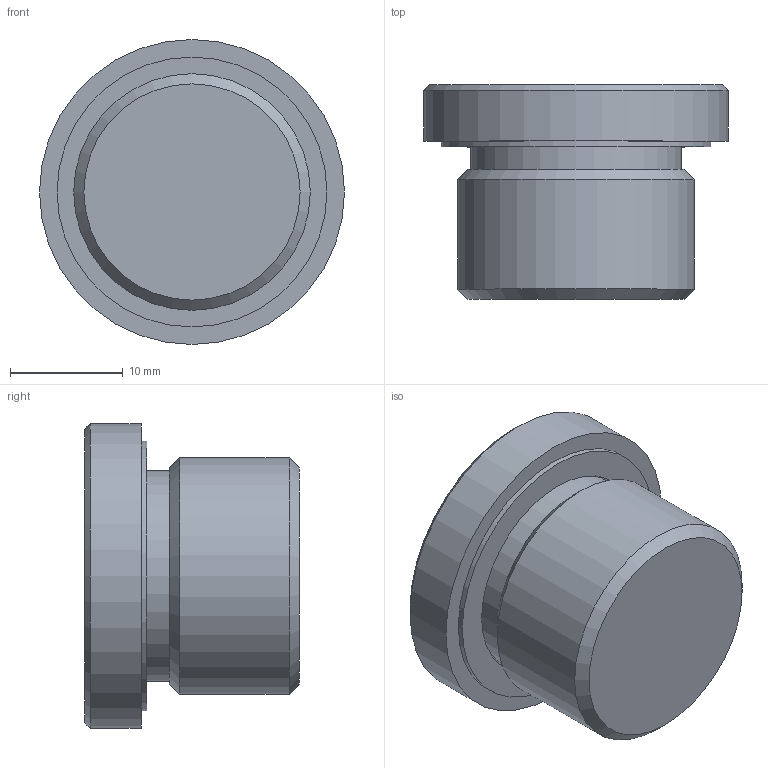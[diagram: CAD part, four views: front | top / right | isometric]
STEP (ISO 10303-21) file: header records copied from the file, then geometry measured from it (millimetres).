
FILE_DESCRIPTION( ( 'STEP AP203' ), '1' );
FILE_NAME( 'C:/Temp/Ganter_Step_05_03_2020/data/3_5/gn749/gn749_a/Threaded plug GN 749-G1_2-A.stp', '2020-03-12T13:41:35', ( 'License CC BY-ND 4.0' ), ( 'CADENAS' ), ' ', 'PARTsolutions', ' ' );
FILE_SCHEMA( ( 'CONFIG_CONTROL_DESIGN' ) );
Length unit declared in the file: millimetre
Products named in the file (1): _Threaded plug GN 749-G1/2-A
Bounding box: 27 x 19 x 27 mm (x, y, z)
Volume: 6838.8 mm3; surface area: 2863.8 mm2
Topology: 1 solids, 1 shells, 21 faces, 41 edges, 27 vertices
Faces by surface type: plane 13, cylinder 5, cone 3
Full cylindrical faces by diameter (mm): 18.655 x1, 19.055 x1, 20.955 x1, 23.9 x1, 27 x1
Entity records: 526 total; most frequent: DIRECTION 88, CARTESIAN_POINT 78, ORIENTED_EDGE 62, AXIS2_PLACEMENT_3D 35, EDGE_LOOP 34, EDGE_CURVE 31, FACE_OUTER_BOUND 26, VERTEX_POINT 25
